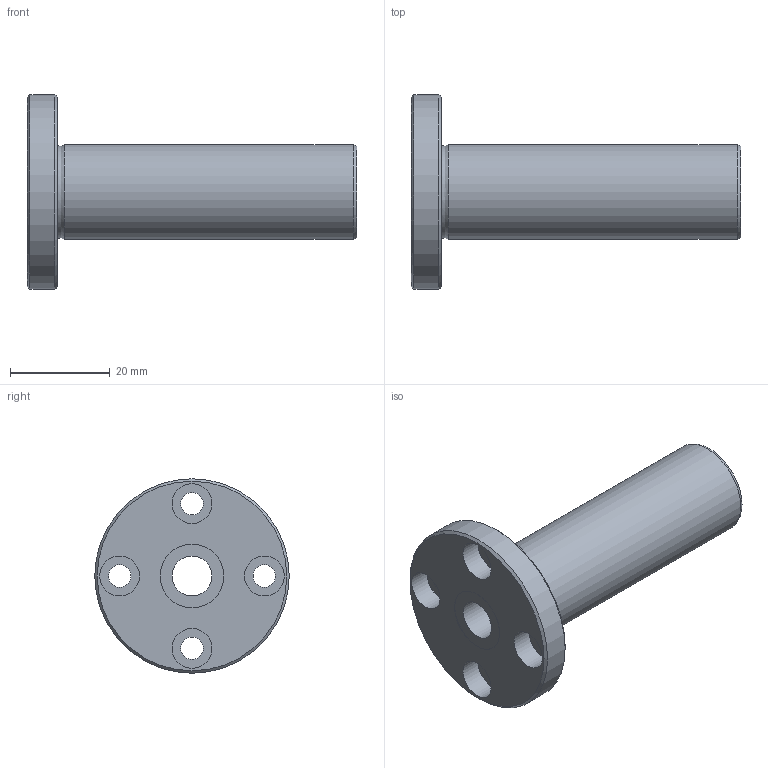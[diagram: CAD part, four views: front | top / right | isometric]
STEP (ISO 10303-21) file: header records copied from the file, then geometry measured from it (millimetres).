
FILE_DESCRIPTION((''),'2;1');
FILE_NAME('D:\製品 (図面)\カタログ用3D\リニアベアリング関連\STEP形式\LFL\LFL8.stp','2010-06-04T08:58:56',('Tsuchiya'),(''),'Autodesk Inventor 10','Autodesk Inventor 10','');
FILE_SCHEMA(('AUTOMOTIVE_DESIGN { 1 0 10303 214 1 1 1 1 }'));
Length unit declared in the file: millimetre
Products named in the file (1): LFL8
Bounding box: 66 x 39 x 39 mm (x, y, z)
Volume: 19817.6 mm3; surface area: 8594.5 mm2
Topology: 1 solids, 1 shells, 26 faces, 47 edges, 30 vertices
Faces by surface type: cylinder 13, plane 9, cone 2, torus 1, bspline 1
Full cylindrical faces by diameter (mm): 4.5 x4, 8 x5, 12.8 x2, 19 x1, 39 x1
Entity records: 665 total; most frequent: CARTESIAN_POINT 149, DIRECTION 112, ORIENTED_EDGE 60, EDGE_LOOP 60, AXIS2_PLACEMENT_3D 56, FACE_BOUND 34, VERTEX_POINT 30, CIRCLE 30
